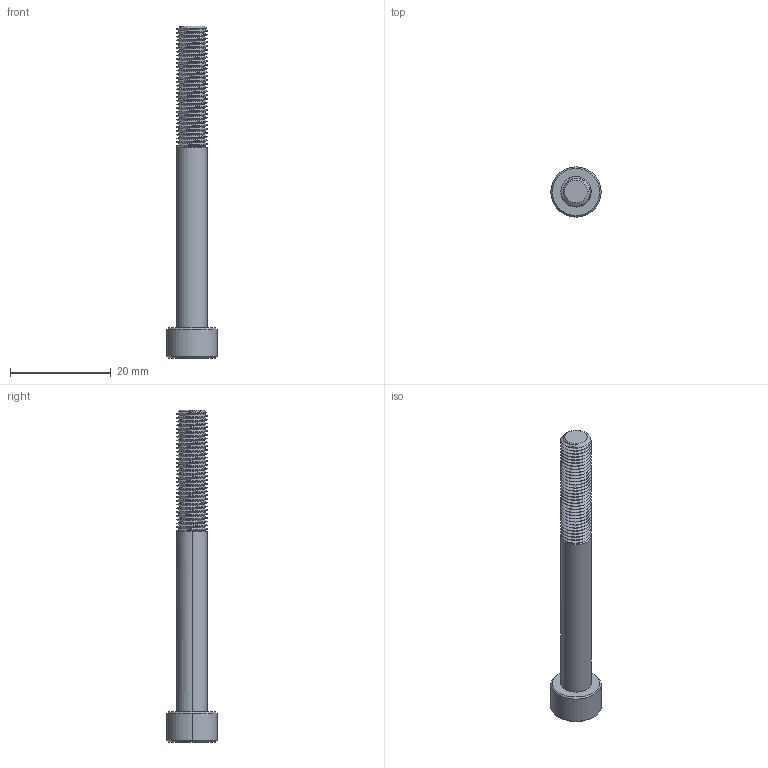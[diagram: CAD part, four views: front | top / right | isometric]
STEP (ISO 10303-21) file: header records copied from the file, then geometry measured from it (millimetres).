
FILE_DESCRIPTION (( 'STEP AP214' ), '1' );
FILE_NAME ('96144A160_Fine-Thread Alloy Steel Socket Head Screw.STEP', '2023-11-02T16:01:38', ( '' ), ( '' ), 'SwSTEP 2.0', 'SolidWorks 2023', '' );
FILE_SCHEMA (( 'AUTOMOTIVE_DESIGN' ));
Length unit declared in the file: metre
Products named in the file (1): 96144A160_Fine-Thread Alloy Steel Socket Head Screw
Bounding box: 10 x 10 x 66 mm (x, y, z)
Volume: 1977.7 mm3; surface area: 1793.5 mm2
Topology: 1 solids, 1 shells, 161 faces, 453 edges, 296 vertices
Faces by surface type: cylinder 132, cone 16, plane 11, bspline 2
Entity records: 10487 total; most frequent: CARTESIAN_POINT 7102, ORIENTED_EDGE 906, DIRECTION 524, EDGE_CURVE 453, VERTEX_POINT 296, AXIS2_PLACEMENT_3D 186, EDGE_LOOP 163, ADVANCED_FACE 161
